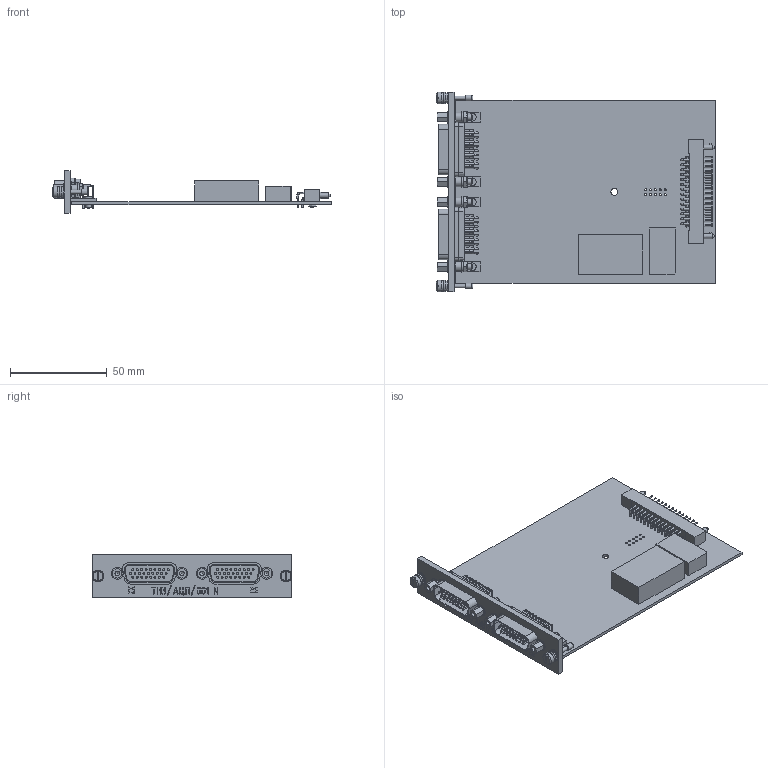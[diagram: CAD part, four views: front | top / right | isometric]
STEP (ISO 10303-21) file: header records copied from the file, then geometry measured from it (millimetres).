
FILE_DESCRIPTION(('STEP AP203'), '1');
FILE_NAME('帎迗.468155.002 沓劌錪 眝3_氈柉001', '', ('UNSPECIFIED'), ('UNSPECIFIED'), 'C3D Converter', 'C3D Toolkit', '');
FILE_SCHEMA(('CONFIG_CONTROL_DESIGN'));
Length unit declared in the file: millimetre
Products named in the file (1): КМНТ.468155.002
Bounding box: 144.03 x 103 x 21.7 mm (x, y, z)
Volume: 43059.1 mm3; surface area: 44993.2 mm2
Topology: 3 solids, 3 shells, 2175 faces, 5666 edges, 3683 vertices
Faces by surface type: cylinder 1013, plane 939, torus 91, cone 72, sphere 60
Full cylindrical faces by diameter (mm): 0.6 x177, 0.76 x52, 0.8 x29, 1 x207, 1.6 x2, 2 x2, 2.362 x4, 2.459 x2, 2.49 x2, 2.5 x2, 2.7 x2, 3 x8, 3.1 x4, 3.175 x8, 3.2 x8, 3.4 x2, 3.5 x5, 4 x4, 5 x4, 6 x14
Entity records: 88208 total; most frequent: CARTESIAN_POINT 17733, DIRECTION 11707, ORIENTED_EDGE 9810, EDGE_CURVE 4905, AXIS2_PLACEMENT_3D 4831, VERTEX_POINT 3650, EDGE_LOOP 3417, CIRCLE 2655
